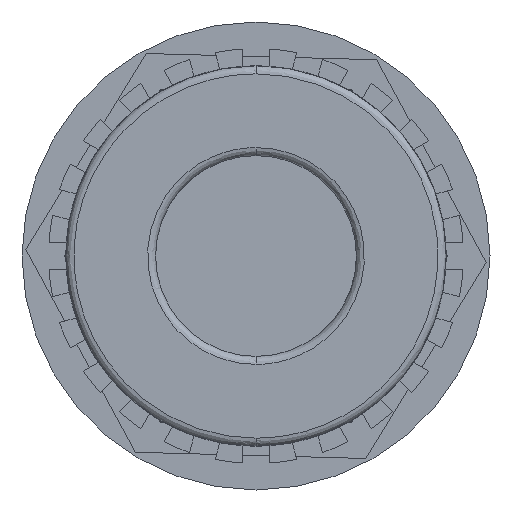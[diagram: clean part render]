
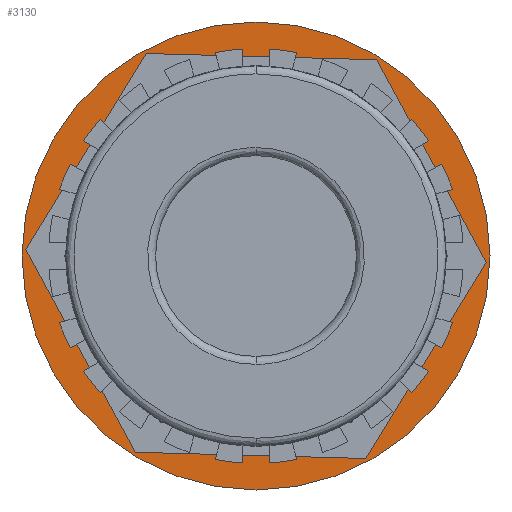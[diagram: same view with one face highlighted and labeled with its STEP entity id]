
A CAD part, left-side view. The second image highlights one B-rep face of the part: STEP entity #3130.
In plain terms, the highlighted planar face has unit normal (-1, 0, 0).
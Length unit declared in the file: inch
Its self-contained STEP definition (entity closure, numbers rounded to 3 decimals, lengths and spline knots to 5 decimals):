
#9 = CARTESIAN_POINT ( 'NONE',  ( -1.93643, 0.18231, 0.73806 ) ) ;
#16 = CARTESIAN_POINT ( 'NONE',  ( -1.93643, -0.23033, -0.02334 ) ) ;
#37 = CARTESIAN_POINT ( 'NONE',  ( -1.93643, 0.22274, -0.7614 ) ) ;
#938 = CARTESIAN_POINT ( 'NONE',  ( -1.93643, 0.63538, -0.88 ) ) ;
#980 = CARTESIAN_POINT ( 'NONE',  ( -1.93643, 0.63538, 0.88 ) ) ;
#1258 = CARTESIAN_POINT ( 'NONE',  ( -1.93643, 0.63538, 0. ) ) ;
#1259 = DIRECTION ( 'NONE',  ( 1., 0., 0. ) ) ;
#1260 = DIRECTION ( 'NONE',  ( 0., 0., -1. ) ) ;
#1428 = LINE ( 'NONE', #3849, #1431 ) ;
#1431 = VECTOR ( 'NONE', #3850, 39.37008 ) ;
#1434 = LINE ( 'NONE', #3854, #1437 ) ;
#1437 = VECTOR ( 'NONE', #3855, 39.37008 ) ;
#1438 = LINE ( 'NONE', #3858, #1441 ) ;
#1441 = VECTOR ( 'NONE', #3859, 39.37008 ) ;
#1442 = LINE ( 'NONE', #3862, #1445 ) ;
#1445 = VECTOR ( 'NONE', #3863, 39.37008 ) ;
#1446 = LINE ( 'NONE', #3866, #1449 ) ;
#1448 = LINE ( 'NONE', #3868, #1451 ) ;
#1449 = VECTOR ( 'NONE', #3867, 39.37008 ) ;
#1450 = CIRCLE ( 'NONE', #2575, 0.88 ) ;
#1451 = VECTOR ( 'NONE', #3869, 39.37008 ) ;
#1528 = CIRCLE ( 'NONE', #2560, 0.88 ) ;
#1901 = CARTESIAN_POINT ( 'NONE',  ( -1.93643, 1.50109, 0.02334 ) ) ;
#1909 = CARTESIAN_POINT ( 'NONE',  ( -1.93643, 1.08845, -0.73806 ) ) ;
#1930 = CARTESIAN_POINT ( 'NONE',  ( -1.93643, 1.04802, 0.7614 ) ) ;
#2166 = AXIS2_PLACEMENT_3D ( 'NONE', #4824, #4825, #4826 ) ;
#2220 = EDGE_CURVE ( 'NONE', #3483, #3478, #1428, .T. ) ;
#2223 = EDGE_CURVE ( 'NONE', #3478, #3504, #1434, .T. ) ;
#2225 = EDGE_CURVE ( 'NONE', #3504, #3536, #1438, .T. ) ;
#2227 = EDGE_CURVE ( 'NONE', #3536, #3543, #1442, .T. ) ;
#2229 = EDGE_CURVE ( 'NONE', #3543, #3564, #1446, .T. ) ;
#2230 = EDGE_CURVE ( 'NONE', #3564, #3483, #1448, .T. ) ;
#2231 = EDGE_CURVE ( 'NONE', #5290, #5253, #1450, .T. ) ;
#2285 = EDGE_CURVE ( 'NONE', #5253, #5290, #1528, .T. ) ;
#2560 = AXIS2_PLACEMENT_3D ( 'NONE', #1258, #1259, #1260 ) ;
#2575 = AXIS2_PLACEMENT_3D ( 'NONE', #3870, #3871, #3460 ) ;
#3130 = ADVANCED_FACE ( 'NONE', ( #5466, #5470 ), #4816, .T. ) ;
#3221 = EDGE_LOOP ( 'NONE', ( #4326, #4313, #4318, #4323, #4333, #4338 ) ) ;
#3460 = DIRECTION ( 'NONE',  ( 0., 0., -1. ) ) ;
#3478 = VERTEX_POINT ( 'NONE', #1901 ) ;
#3483 = VERTEX_POINT ( 'NONE', #1909 ) ;
#3504 = VERTEX_POINT ( 'NONE', #1930 ) ;
#3536 = VERTEX_POINT ( 'NONE', #9 ) ;
#3543 = VERTEX_POINT ( 'NONE', #16 ) ;
#3564 = VERTEX_POINT ( 'NONE', #37 ) ;
#3592 = EDGE_LOOP ( 'NONE', ( #4357, #4360 ) ) ;
#3849 = CARTESIAN_POINT ( 'NONE',  ( -1.93643, 1.08845, -0.73806 ) ) ;
#3850 = DIRECTION ( 'NONE',  ( 0., 0.476, 0.879 ) ) ;
#3854 = CARTESIAN_POINT ( 'NONE',  ( -1.93643, 1.50109, 0.02334 ) ) ;
#3855 = DIRECTION ( 'NONE',  ( 0., -0.523, 0.852 ) ) ;
#3858 = CARTESIAN_POINT ( 'NONE',  ( -1.93643, 1.04802, 0.7614 ) ) ;
#3859 = DIRECTION ( 'NONE',  ( 0., -1., -0.027 ) ) ;
#3862 = CARTESIAN_POINT ( 'NONE',  ( -1.93643, 0.18231, 0.73806 ) ) ;
#3863 = DIRECTION ( 'NONE',  ( 0., -0.476, -0.879 ) ) ;
#3866 = CARTESIAN_POINT ( 'NONE',  ( -1.93643, -0.23033, -0.02334 ) ) ;
#3867 = DIRECTION ( 'NONE',  ( 0., 0.523, -0.852 ) ) ;
#3868 = CARTESIAN_POINT ( 'NONE',  ( -1.93643, 0.22274, -0.7614 ) ) ;
#3869 = DIRECTION ( 'NONE',  ( 0., 1., 0.027 ) ) ;
#3870 = CARTESIAN_POINT ( 'NONE',  ( -1.93643, 0.63538, 0. ) ) ;
#3871 = DIRECTION ( 'NONE',  ( 1., 0., 0. ) ) ;
#4313 = ORIENTED_EDGE ( 'NONE', *, *, #2230, .T. ) ;
#4318 = ORIENTED_EDGE ( 'NONE', *, *, #2220, .T. ) ;
#4323 = ORIENTED_EDGE ( 'NONE', *, *, #2223, .T. ) ;
#4326 = ORIENTED_EDGE ( 'NONE', *, *, #2229, .T. ) ;
#4333 = ORIENTED_EDGE ( 'NONE', *, *, #2225, .T. ) ;
#4338 = ORIENTED_EDGE ( 'NONE', *, *, #2227, .T. ) ;
#4357 = ORIENTED_EDGE ( 'NONE', *, *, #2285, .F. ) ;
#4360 = ORIENTED_EDGE ( 'NONE', *, *, #2231, .F. ) ;
#4816 = PLANE ( 'NONE',  #2166 ) ;
#4824 = CARTESIAN_POINT ( 'NONE',  ( -1.93643, 1.38535, 0.46038 ) ) ;
#4825 = DIRECTION ( 'NONE',  ( -1., 0., 0. ) ) ;
#4826 = DIRECTION ( 'NONE',  ( 0., 0., 1. ) ) ;
#5253 = VERTEX_POINT ( 'NONE', #938 ) ;
#5290 = VERTEX_POINT ( 'NONE', #980 ) ;
#5466 = FACE_BOUND ( 'NONE', #3221, .T. ) ;
#5470 = FACE_OUTER_BOUND ( 'NONE', #3592, .T. ) ;
